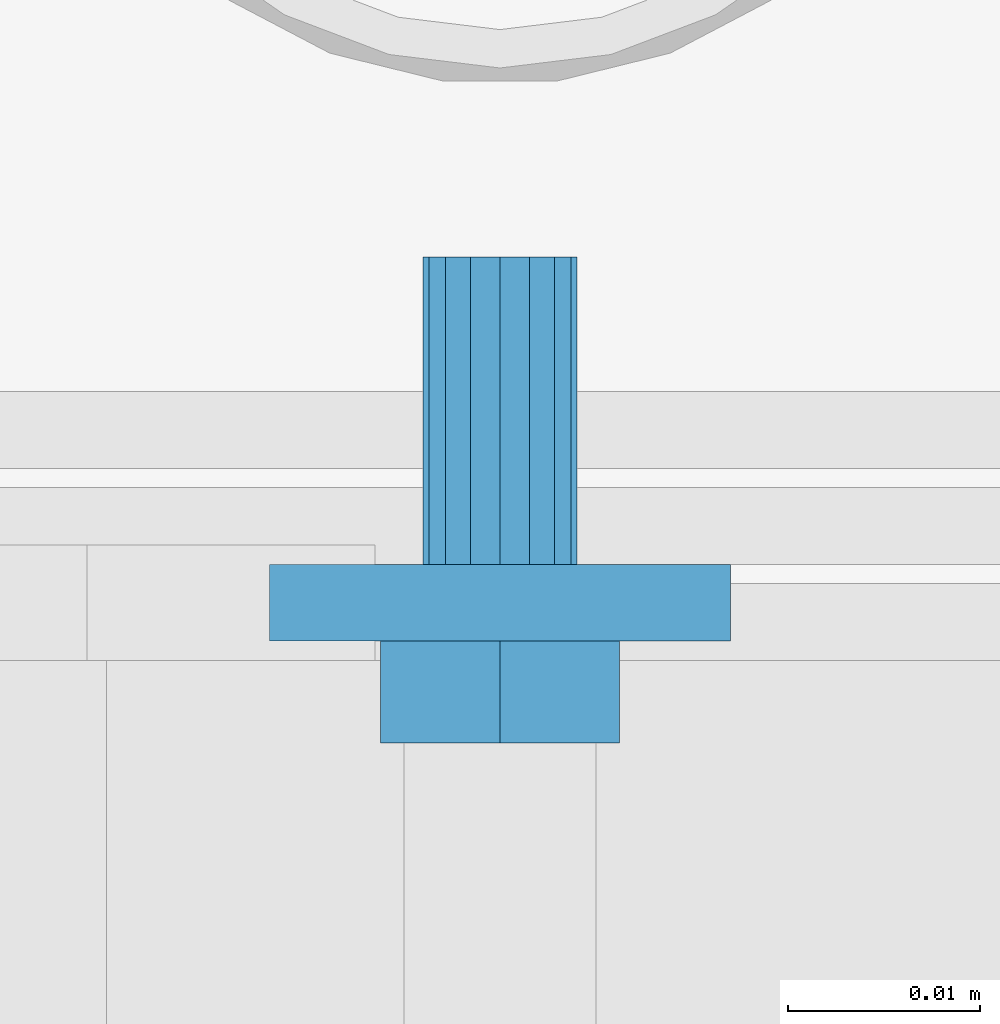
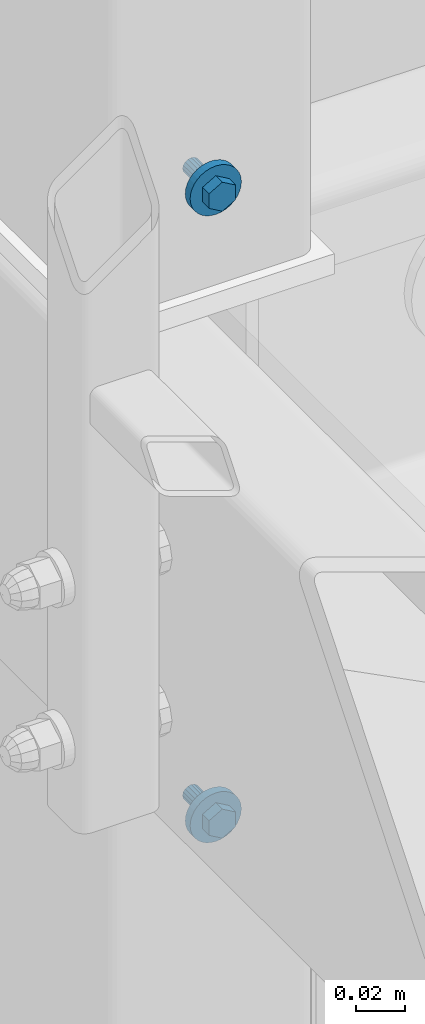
# One storey, part 55 of 116: 2 mechanical fasteners.
"""IFC2X3 building model written with IfcOpenShell, lengths in millimetres."""

from ifc_helpers import new_model, entity, si_unit, converted_unit, origin_with_axes, place, context, project, spatial, faceted_brep, element, save


model = new_model("IFC2X3")

# Units and contexts
model_context = context("Model", 3, precision=1e-09, world=origin_with_axes())
ifc_project = project(units=[si_unit("LENGTHUNIT", "METRE", prefix="MILLI"), si_unit("AREAUNIT", "SQUARE_METRE"), si_unit("VOLUMEUNIT", "CUBIC_METRE"), converted_unit("PLANEANGLEUNIT", "DEGREE", entity("IfcPlaneAngleMeasure", 0.01745329), si_unit("PLANEANGLEUNIT", "RADIAN"), dimensions=[0, 0, 0, 0, 0, 0, 0])], contexts=[model_context])

# Site, building, storey
site_placement = place(None, origin_with_axes())
site = spatial("IfcSite", under=ifc_project, at=site_placement, Name="Site", CompositionType="ELEMENT")
building_placement = place(site_placement, origin_with_axes())
building = spatial("IfcBuilding", under=site, at=building_placement, Name="Struktur 1", CompositionType="ELEMENT")
storey_placement = place(building_placement, origin_with_axes())
storey = spatial("IfcBuildingStorey", under=building, at=storey_placement, Name="Default Storey", CompositionType="ELEMENT", Elevation=0.0)

# Mechanical fasteners
mechanical_fastener_1_placement = place(None, origin_with_axes())
element("IfcMechanicalFastener", 1, at=mechanical_fastener_1_placement, inside=storey, ObjectType="-", NominalDiameter=8.0, NominalLength=20.0, context=model_context, shape_type="Brep", body=[
    faceted_brep([(55325.049134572, 11910.358883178, -255.0), (55325.049134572, 11912.358883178, -255.0), (55325.279711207, 11912.358883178, -257.341083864), (55325.279711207, 11910.358883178, -257.341083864), (55325.962580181, 11912.358883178, -259.592201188), (55325.962580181, 11910.358883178, -259.592201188), (55327.071499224, 11912.358883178, -261.666842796), (55327.071499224, 11910.358883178, -261.666842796), (55328.563853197, 11912.358883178, -263.485281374), (55328.563853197, 11910.358883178, -263.485281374), (55330.382291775, 11912.358883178, -264.977635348), (55330.382291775, 11910.358883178, -264.977635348), (55332.456933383, 11912.358883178, -266.08655439), (55332.456933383, 11910.358883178, -266.08655439), (55334.708050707, 11912.358883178, -266.769423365), (55334.708050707, 11910.358883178, -266.769423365), (55337.049134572, 11912.358883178, -267.0), (55337.049134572, 11910.358883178, -267.0), (55339.390218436, 11912.358883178, -266.769423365), (55339.390218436, 11910.358883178, -266.769423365), (55341.64133576, 11912.358883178, -266.08655439), (55341.64133576, 11910.358883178, -266.08655439), (55343.715977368, 11912.358883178, -264.977635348), (55343.715977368, 11910.358883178, -264.977635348), (55345.534415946, 11912.358883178, -263.485281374), (55345.534415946, 11910.358883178, -263.485281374), (55347.026769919, 11912.358883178, -261.666842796), (55347.026769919, 11910.358883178, -261.666842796), (55348.135688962, 11912.358883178, -259.592201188), (55348.135688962, 11910.358883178, -259.592201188), (55348.818557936, 11912.358883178, -257.341083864), (55348.818557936, 11910.358883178, -257.341083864), (55349.049134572, 11912.358883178, -255.0), (55349.049134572, 11910.358883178, -255.0), (55348.818557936, 11912.358883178, -252.658916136), (55348.818557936, 11910.358883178, -252.658916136), (55348.135688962, 11912.358883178, -250.407798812), (55348.135688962, 11910.358883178, -250.407798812), (55347.026769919, 11912.358883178, -248.333157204), (55347.026769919, 11910.358883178, -248.333157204), (55345.534415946, 11912.358883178, -246.514718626), (55345.534415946, 11910.358883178, -246.514718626), (55343.715977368, 11912.358883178, -245.022364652), (55343.715977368, 11910.358883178, -245.022364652), (55341.64133576, 11912.358883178, -243.91344561), (55341.64133576, 11910.358883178, -243.91344561), (55339.390218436, 11912.358883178, -243.230576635), (55339.390218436, 11910.358883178, -243.230576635), (55337.049134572, 11912.358883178, -243.0), (55337.049134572, 11910.358883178, -243.0), (55334.708050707, 11912.358883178, -243.230576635), (55334.708050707, 11910.358883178, -243.230576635), (55332.456933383, 11912.358883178, -243.91344561), (55332.456933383, 11910.358883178, -243.91344561), (55330.382291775, 11912.358883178, -245.022364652), (55330.382291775, 11910.358883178, -245.022364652), (55328.563853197, 11912.358883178, -246.514718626), (55328.563853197, 11910.358883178, -246.514718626), (55327.071499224, 11912.358883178, -248.333157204), (55327.071499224, 11910.358883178, -248.333157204), (55325.962580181, 11912.358883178, -250.407798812), (55325.962580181, 11910.358883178, -250.407798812), (55325.279711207, 11912.358883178, -252.658916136), (55325.279711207, 11910.358883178, -252.658916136)], [[[0, 1, 2, 3]], [[3, 2, 4, 5]], [[5, 4, 6, 7]], [[7, 6, 8, 9]], [[9, 8, 10, 11]], [[11, 10, 12, 13]], [[13, 12, 14, 15]], [[15, 14, 16, 17]], [[17, 16, 18, 19]], [[19, 18, 20, 21]], [[21, 20, 22, 23]], [[23, 22, 24, 25]], [[25, 24, 26, 27]], [[27, 26, 28, 29]], [[29, 28, 30, 31]], [[31, 30, 32, 33]], [[33, 32, 34, 35]], [[35, 34, 36, 37]], [[37, 36, 38, 39]], [[39, 38, 40, 41]], [[41, 40, 42, 43]], [[43, 42, 44, 45]], [[45, 44, 46, 47]], [[47, 46, 48, 49]], [[49, 48, 50, 51]], [[51, 50, 52, 53]], [[53, 52, 54, 55]], [[55, 54, 56, 57]], [[57, 56, 58, 59]], [[59, 58, 60, 61]], [[61, 60, 62, 63]], [[63, 62, 1, 0]], [[0, 3, 5, 7, 9, 11, 13, 15, 17, 19, 21, 23, 25, 27, 29, 31, 33, 35, 37, 39, 41, 43, 45, 47, 49, 51, 53, 55, 57, 59, 61, 63]], [[1, 62, 60, 58, 56, 54, 52, 50, 48, 46, 44, 42, 40, 38, 36, 34, 32, 30, 28, 26, 24, 22, 20, 18, 16, 14, 12, 10, 8, 6, 4, 2]]]),
    faceted_brep([(55325.049134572, 11908.358883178, -255.0), (55325.049134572, 11910.358883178, -255.0), (55325.279711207, 11910.358883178, -257.341083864), (55325.279711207, 11908.358883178, -257.341083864), (55325.962580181, 11910.358883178, -259.592201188), (55325.962580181, 11908.358883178, -259.592201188), (55327.071499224, 11910.358883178, -261.666842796), (55327.071499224, 11908.358883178, -261.666842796), (55328.563853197, 11910.358883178, -263.485281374), (55328.563853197, 11908.358883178, -263.485281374), (55330.382291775, 11910.358883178, -264.977635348), (55330.382291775, 11908.358883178, -264.977635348), (55332.456933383, 11910.358883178, -266.08655439), (55332.456933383, 11908.358883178, -266.08655439), (55334.708050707, 11910.358883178, -266.769423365), (55334.708050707, 11908.358883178, -266.769423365), (55337.049134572, 11910.358883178, -267.0), (55337.049134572, 11908.358883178, -267.0), (55339.390218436, 11910.358883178, -266.769423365), (55339.390218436, 11908.358883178, -266.769423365), (55341.64133576, 11910.358883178, -266.08655439), (55341.64133576, 11908.358883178, -266.08655439), (55343.715977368, 11910.358883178, -264.977635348), (55343.715977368, 11908.358883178, -264.977635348), (55345.534415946, 11910.358883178, -263.485281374), (55345.534415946, 11908.358883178, -263.485281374), (55347.026769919, 11910.358883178, -261.666842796), (55347.026769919, 11908.358883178, -261.666842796), (55348.135688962, 11910.358883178, -259.592201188), (55348.135688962, 11908.358883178, -259.592201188), (55348.818557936, 11910.358883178, -257.341083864), (55348.818557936, 11908.358883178, -257.341083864), (55349.049134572, 11910.358883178, -255.0), (55349.049134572, 11908.358883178, -255.0), (55348.818557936, 11910.358883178, -252.658916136), (55348.818557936, 11908.358883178, -252.658916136), (55348.135688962, 11910.358883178, -250.407798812), (55348.135688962, 11908.358883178, -250.407798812), (55347.026769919, 11910.358883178, -248.333157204), (55347.026769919, 11908.358883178, -248.333157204), (55345.534415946, 11910.358883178, -246.514718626), (55345.534415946, 11908.358883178, -246.514718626), (55343.715977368, 11910.358883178, -245.022364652), (55343.715977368, 11908.358883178, -245.022364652), (55341.64133576, 11910.358883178, -243.91344561), (55341.64133576, 11908.358883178, -243.91344561), (55339.390218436, 11910.358883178, -243.230576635), (55339.390218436, 11908.358883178, -243.230576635), (55337.049134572, 11910.358883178, -243.0), (55337.049134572, 11908.358883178, -243.0), (55334.708050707, 11910.358883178, -243.230576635), (55334.708050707, 11908.358883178, -243.230576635), (55332.456933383, 11910.358883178, -243.91344561), (55332.456933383, 11908.358883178, -243.91344561), (55330.382291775, 11910.358883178, -245.022364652), (55330.382291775, 11908.358883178, -245.022364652), (55328.563853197, 11910.358883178, -246.514718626), (55328.563853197, 11908.358883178, -246.514718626), (55327.071499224, 11910.358883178, -248.333157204), (55327.071499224, 11908.358883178, -248.333157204), (55325.962580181, 11910.358883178, -250.407798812), (55325.962580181, 11908.358883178, -250.407798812), (55325.279711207, 11910.358883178, -252.658916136), (55325.279711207, 11908.358883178, -252.658916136)], [[[0, 1, 2, 3]], [[3, 2, 4, 5]], [[5, 4, 6, 7]], [[7, 6, 8, 9]], [[9, 8, 10, 11]], [[11, 10, 12, 13]], [[13, 12, 14, 15]], [[15, 14, 16, 17]], [[17, 16, 18, 19]], [[19, 18, 20, 21]], [[21, 20, 22, 23]], [[23, 22, 24, 25]], [[25, 24, 26, 27]], [[27, 26, 28, 29]], [[29, 28, 30, 31]], [[31, 30, 32, 33]], [[33, 32, 34, 35]], [[35, 34, 36, 37]], [[37, 36, 38, 39]], [[39, 38, 40, 41]], [[41, 40, 42, 43]], [[43, 42, 44, 45]], [[45, 44, 46, 47]], [[47, 46, 48, 49]], [[49, 48, 50, 51]], [[51, 50, 52, 53]], [[53, 52, 54, 55]], [[55, 54, 56, 57]], [[57, 56, 58, 59]], [[59, 58, 60, 61]], [[61, 60, 62, 63]], [[63, 62, 1, 0]], [[0, 3, 5, 7, 9, 11, 13, 15, 17, 19, 21, 23, 25, 27, 29, 31, 33, 35, 37, 39, 41, 43, 45, 47, 49, 51, 53, 55, 57, 59, 61, 63]], [[1, 62, 60, 58, 56, 54, 52, 50, 48, 46, 44, 42, 40, 38, 36, 34, 32, 30, 28, 26, 24, 22, 20, 18, 16, 14, 12, 10, 8, 6, 4, 2]]]),
    faceted_brep([(55343.275857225, 11908.358883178, -258.595), (55343.275857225, 11903.058883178, -258.595), (55337.049134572, 11903.058883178, -262.19), (55337.049134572, 11908.358883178, -262.19), (55330.822411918, 11903.058883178, -258.595), (55330.822411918, 11908.358883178, -258.595), (55330.822411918, 11903.058883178, -251.405), (55330.822411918, 11908.358883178, -251.405), (55337.049134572, 11903.058883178, -247.81), (55337.049134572, 11908.358883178, -247.81), (55343.275857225, 11903.058883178, -251.405), (55343.275857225, 11908.358883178, -251.405)], [[[0, 1, 2, 3]], [[3, 2, 4, 5]], [[5, 4, 6, 7]], [[7, 6, 8, 9]], [[9, 8, 10, 11]], [[11, 10, 1, 0]], [[4, 2, 1, 10, 8, 6]], [[0, 3, 5, 7, 9, 11]]]),
    faceted_brep([(55333.049134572, 11912.358883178, -255.0), (55333.049134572, 11921.358883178, -255.0), (55333.353616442, 11921.358883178, -256.530733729), (55333.353616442, 11912.358883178, -256.530733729), (55334.220707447, 11921.358883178, -257.828427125), (55334.220707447, 11912.358883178, -257.828427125), (55335.518400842, 11921.358883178, -258.69551813), (55335.518400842, 11912.358883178, -258.69551813), (55337.049134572, 11921.358883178, -259.0), (55337.049134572, 11912.358883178, -259.0), (55338.579868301, 11921.358883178, -258.69551813), (55338.579868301, 11912.358883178, -258.69551813), (55339.877561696, 11921.358883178, -257.828427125), (55339.877561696, 11912.358883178, -257.828427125), (55340.744652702, 11921.358883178, -256.530733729), (55340.744652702, 11912.358883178, -256.530733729), (55341.049134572, 11921.358883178, -255.0), (55341.049134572, 11912.358883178, -255.0), (55340.744652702, 11921.358883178, -253.46926627), (55340.744652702, 11912.358883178, -253.46926627), (55339.877561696, 11921.358883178, -252.171572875), (55339.877561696, 11912.358883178, -252.171572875), (55338.579868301, 11921.358883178, -251.30448187), (55338.579868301, 11912.358883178, -251.30448187), (55337.049134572, 11921.358883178, -251.0), (55337.049134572, 11912.358883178, -251.0), (55335.518400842, 11921.358883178, -251.30448187), (55335.518400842, 11912.358883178, -251.30448187), (55334.220707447, 11921.358883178, -252.171572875), (55334.220707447, 11912.358883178, -252.171572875), (55333.353616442, 11921.358883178, -253.46926627), (55333.353616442, 11912.358883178, -253.46926627)], [[[0, 1, 2, 3]], [[3, 2, 4, 5]], [[5, 4, 6, 7]], [[7, 6, 8, 9]], [[9, 8, 10, 11]], [[11, 10, 12, 13]], [[13, 12, 14, 15]], [[15, 14, 16, 17]], [[17, 16, 18, 19]], [[19, 18, 20, 21]], [[21, 20, 22, 23]], [[23, 22, 24, 25]], [[25, 24, 26, 27]], [[27, 26, 28, 29]], [[29, 28, 30, 31]], [[31, 30, 1, 0]], [[0, 3, 5, 7, 9, 11, 13, 15, 17, 19, 21, 23, 25, 27, 29, 31]], [[1, 30, 28, 26, 24, 22, 20, 18, 16, 14, 12, 10, 8, 6, 4, 2]]]),
    faceted_brep([(55333.049134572, 11921.358883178, -255.0), (55333.049134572, 11928.358883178, -255.0), (55333.353616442, 11928.358883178, -256.530733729), (55333.353616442, 11921.358883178, -256.530733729), (55334.220707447, 11928.358883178, -257.828427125), (55334.220707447, 11921.358883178, -257.828427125), (55335.518400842, 11928.358883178, -258.69551813), (55335.518400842, 11921.358883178, -258.69551813), (55337.049134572, 11928.358883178, -259.0), (55337.049134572, 11921.358883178, -259.0), (55338.579868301, 11928.358883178, -258.69551813), (55338.579868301, 11921.358883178, -258.69551813), (55339.877561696, 11928.358883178, -257.828427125), (55339.877561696, 11921.358883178, -257.828427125), (55340.744652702, 11928.358883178, -256.530733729), (55340.744652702, 11921.358883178, -256.530733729), (55341.049134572, 11928.358883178, -255.0), (55341.049134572, 11921.358883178, -255.0), (55340.744652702, 11928.358883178, -253.46926627), (55340.744652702, 11921.358883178, -253.46926627), (55339.877561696, 11928.358883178, -252.171572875), (55339.877561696, 11921.358883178, -252.171572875), (55338.579868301, 11928.358883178, -251.30448187), (55338.579868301, 11921.358883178, -251.30448187), (55337.049134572, 11928.358883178, -251.0), (55337.049134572, 11921.358883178, -251.0), (55335.518400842, 11928.358883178, -251.30448187), (55335.518400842, 11921.358883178, -251.30448187), (55334.220707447, 11928.358883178, -252.171572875), (55334.220707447, 11921.358883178, -252.171572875), (55333.353616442, 11928.358883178, -253.46926627), (55333.353616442, 11921.358883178, -253.46926627)], [[[0, 1, 2, 3]], [[3, 2, 4, 5]], [[5, 4, 6, 7]], [[7, 6, 8, 9]], [[9, 8, 10, 11]], [[11, 10, 12, 13]], [[13, 12, 14, 15]], [[15, 14, 16, 17]], [[17, 16, 18, 19]], [[19, 18, 20, 21]], [[21, 20, 22, 23]], [[23, 22, 24, 25]], [[25, 24, 26, 27]], [[27, 26, 28, 29]], [[29, 28, 30, 31]], [[31, 30, 1, 0]], [[0, 3, 5, 7, 9, 11, 13, 15, 17, 19, 21, 23, 25, 27, 29, 31]], [[1, 30, 28, 26, 24, 22, 20, 18, 16, 14, 12, 10, 8, 6, 4, 2]]]),
])
mechanical_fastener_2_placement = place(None, origin_with_axes())
element("IfcMechanicalFastener", 2, at=mechanical_fastener_2_placement, inside=storey, ObjectType="-", NominalDiameter=8.0, NominalLength=20.0, context=model_context, shape_type="Brep", body=[
    faceted_brep([(55325.049134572, 11912.358883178, 55.0), (55325.049134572, 11910.358883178, 55.0), (55325.279711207, 11910.358883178, 57.341083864), (55325.279711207, 11912.358883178, 57.341083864), (55325.962580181, 11910.358883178, 59.592201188), (55325.962580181, 11912.358883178, 59.592201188), (55327.071499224, 11910.358883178, 61.666842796), (55327.071499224, 11912.358883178, 61.666842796), (55328.563853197, 11910.358883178, 63.485281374), (55328.563853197, 11912.358883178, 63.485281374), (55330.382291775, 11910.358883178, 64.977635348), (55330.382291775, 11912.358883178, 64.977635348), (55332.456933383, 11910.358883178, 66.08655439), (55332.456933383, 11912.358883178, 66.08655439), (55334.708050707, 11910.358883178, 66.769423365), (55334.708050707, 11912.358883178, 66.769423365), (55337.049134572, 11910.358883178, 67.0), (55337.049134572, 11912.358883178, 67.0), (55339.390218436, 11910.358883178, 66.769423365), (55339.390218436, 11912.358883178, 66.769423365), (55341.64133576, 11910.358883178, 66.08655439), (55341.64133576, 11912.358883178, 66.08655439), (55343.715977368, 11910.358883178, 64.977635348), (55343.715977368, 11912.358883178, 64.977635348), (55345.534415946, 11910.358883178, 63.485281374), (55345.534415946, 11912.358883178, 63.485281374), (55347.026769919, 11910.358883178, 61.666842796), (55347.026769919, 11912.358883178, 61.666842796), (55348.135688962, 11910.358883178, 59.592201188), (55348.135688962, 11912.358883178, 59.592201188), (55348.818557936, 11910.358883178, 57.341083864), (55348.818557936, 11912.358883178, 57.341083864), (55349.049134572, 11910.358883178, 55.0), (55349.049134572, 11912.358883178, 55.0), (55348.818557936, 11910.358883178, 52.658916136), (55348.818557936, 11912.358883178, 52.658916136), (55348.135688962, 11910.358883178, 50.407798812), (55348.135688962, 11912.358883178, 50.407798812), (55347.026769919, 11910.358883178, 48.333157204), (55347.026769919, 11912.358883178, 48.333157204), (55345.534415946, 11910.358883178, 46.514718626), (55345.534415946, 11912.358883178, 46.514718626), (55343.715977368, 11910.358883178, 45.022364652), (55343.715977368, 11912.358883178, 45.022364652), (55341.64133576, 11910.358883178, 43.91344561), (55341.64133576, 11912.358883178, 43.91344561), (55339.390218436, 11910.358883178, 43.230576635), (55339.390218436, 11912.358883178, 43.230576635), (55337.049134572, 11910.358883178, 43.0), (55337.049134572, 11912.358883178, 43.0), (55334.708050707, 11910.358883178, 43.230576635), (55334.708050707, 11912.358883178, 43.230576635), (55332.456933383, 11910.358883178, 43.91344561), (55332.456933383, 11912.358883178, 43.91344561), (55330.382291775, 11910.358883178, 45.022364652), (55330.382291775, 11912.358883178, 45.022364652), (55328.563853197, 11910.358883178, 46.514718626), (55328.563853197, 11912.358883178, 46.514718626), (55327.071499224, 11910.358883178, 48.333157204), (55327.071499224, 11912.358883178, 48.333157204), (55325.962580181, 11910.358883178, 50.407798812), (55325.962580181, 11912.358883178, 50.407798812), (55325.279711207, 11910.358883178, 52.658916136), (55325.279711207, 11912.358883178, 52.658916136)], [[[0, 1, 2, 3]], [[3, 2, 4, 5]], [[5, 4, 6, 7]], [[7, 6, 8, 9]], [[9, 8, 10, 11]], [[11, 10, 12, 13]], [[13, 12, 14, 15]], [[15, 14, 16, 17]], [[17, 16, 18, 19]], [[19, 18, 20, 21]], [[21, 20, 22, 23]], [[23, 22, 24, 25]], [[25, 24, 26, 27]], [[27, 26, 28, 29]], [[29, 28, 30, 31]], [[31, 30, 32, 33]], [[33, 32, 34, 35]], [[35, 34, 36, 37]], [[37, 36, 38, 39]], [[39, 38, 40, 41]], [[41, 40, 42, 43]], [[43, 42, 44, 45]], [[45, 44, 46, 47]], [[47, 46, 48, 49]], [[49, 48, 50, 51]], [[51, 50, 52, 53]], [[53, 52, 54, 55]], [[55, 54, 56, 57]], [[57, 56, 58, 59]], [[59, 58, 60, 61]], [[61, 60, 62, 63]], [[63, 62, 1, 0]], [[2, 1, 62, 60, 58, 56, 54, 52, 50, 48, 46, 44, 42, 40, 38, 36, 34, 32, 30, 28, 26, 24, 22, 20, 18, 16, 14, 12, 10, 8, 6, 4]], [[63, 0, 3, 5, 7, 9, 11, 13, 15, 17, 19, 21, 23, 25, 27, 29, 31, 33, 35, 37, 39, 41, 43, 45, 47, 49, 51, 53, 55, 57, 59, 61]]]),
    faceted_brep([(55325.049134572, 11910.358883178, 55.0), (55325.049134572, 11908.358883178, 55.0), (55325.279711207, 11908.358883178, 57.341083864), (55325.279711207, 11910.358883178, 57.341083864), (55325.962580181, 11908.358883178, 59.592201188), (55325.962580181, 11910.358883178, 59.592201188), (55327.071499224, 11908.358883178, 61.666842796), (55327.071499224, 11910.358883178, 61.666842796), (55328.563853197, 11908.358883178, 63.485281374), (55328.563853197, 11910.358883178, 63.485281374), (55330.382291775, 11908.358883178, 64.977635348), (55330.382291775, 11910.358883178, 64.977635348), (55332.456933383, 11908.358883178, 66.08655439), (55332.456933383, 11910.358883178, 66.08655439), (55334.708050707, 11908.358883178, 66.769423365), (55334.708050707, 11910.358883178, 66.769423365), (55337.049134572, 11908.358883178, 67.0), (55337.049134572, 11910.358883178, 67.0), (55339.390218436, 11908.358883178, 66.769423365), (55339.390218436, 11910.358883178, 66.769423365), (55341.64133576, 11908.358883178, 66.08655439), (55341.64133576, 11910.358883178, 66.08655439), (55343.715977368, 11908.358883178, 64.977635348), (55343.715977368, 11910.358883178, 64.977635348), (55345.534415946, 11908.358883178, 63.485281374), (55345.534415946, 11910.358883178, 63.485281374), (55347.026769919, 11908.358883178, 61.666842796), (55347.026769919, 11910.358883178, 61.666842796), (55348.135688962, 11908.358883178, 59.592201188), (55348.135688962, 11910.358883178, 59.592201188), (55348.818557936, 11908.358883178, 57.341083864), (55348.818557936, 11910.358883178, 57.341083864), (55349.049134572, 11908.358883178, 55.0), (55349.049134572, 11910.358883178, 55.0), (55348.818557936, 11908.358883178, 52.658916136), (55348.818557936, 11910.358883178, 52.658916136), (55348.135688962, 11908.358883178, 50.407798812), (55348.135688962, 11910.358883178, 50.407798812), (55347.026769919, 11908.358883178, 48.333157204), (55347.026769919, 11910.358883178, 48.333157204), (55345.534415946, 11908.358883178, 46.514718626), (55345.534415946, 11910.358883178, 46.514718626), (55343.715977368, 11908.358883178, 45.022364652), (55343.715977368, 11910.358883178, 45.022364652), (55341.64133576, 11908.358883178, 43.91344561), (55341.64133576, 11910.358883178, 43.91344561), (55339.390218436, 11908.358883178, 43.230576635), (55339.390218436, 11910.358883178, 43.230576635), (55337.049134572, 11908.358883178, 43.0), (55337.049134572, 11910.358883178, 43.0), (55334.708050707, 11908.358883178, 43.230576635), (55334.708050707, 11910.358883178, 43.230576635), (55332.456933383, 11908.358883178, 43.91344561), (55332.456933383, 11910.358883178, 43.91344561), (55330.382291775, 11908.358883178, 45.022364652), (55330.382291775, 11910.358883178, 45.022364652), (55328.563853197, 11908.358883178, 46.514718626), (55328.563853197, 11910.358883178, 46.514718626), (55327.071499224, 11908.358883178, 48.333157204), (55327.071499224, 11910.358883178, 48.333157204), (55325.962580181, 11908.358883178, 50.407798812), (55325.962580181, 11910.358883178, 50.407798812), (55325.279711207, 11908.358883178, 52.658916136), (55325.279711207, 11910.358883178, 52.658916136)], [[[0, 1, 2, 3]], [[3, 2, 4, 5]], [[5, 4, 6, 7]], [[7, 6, 8, 9]], [[9, 8, 10, 11]], [[11, 10, 12, 13]], [[13, 12, 14, 15]], [[15, 14, 16, 17]], [[17, 16, 18, 19]], [[19, 18, 20, 21]], [[21, 20, 22, 23]], [[23, 22, 24, 25]], [[25, 24, 26, 27]], [[27, 26, 28, 29]], [[29, 28, 30, 31]], [[31, 30, 32, 33]], [[33, 32, 34, 35]], [[35, 34, 36, 37]], [[37, 36, 38, 39]], [[39, 38, 40, 41]], [[41, 40, 42, 43]], [[43, 42, 44, 45]], [[45, 44, 46, 47]], [[47, 46, 48, 49]], [[49, 48, 50, 51]], [[51, 50, 52, 53]], [[53, 52, 54, 55]], [[55, 54, 56, 57]], [[57, 56, 58, 59]], [[59, 58, 60, 61]], [[61, 60, 62, 63]], [[63, 62, 1, 0]], [[2, 1, 62, 60, 58, 56, 54, 52, 50, 48, 46, 44, 42, 40, 38, 36, 34, 32, 30, 28, 26, 24, 22, 20, 18, 16, 14, 12, 10, 8, 6, 4]], [[63, 0, 3, 5, 7, 9, 11, 13, 15, 17, 19, 21, 23, 25, 27, 29, 31, 33, 35, 37, 39, 41, 43, 45, 47, 49, 51, 53, 55, 57, 59, 61]]]),
    faceted_brep([(55343.275857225, 11903.058883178, 58.595), (55343.275857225, 11908.358883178, 58.595), (55337.049134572, 11908.358883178, 62.19), (55337.049134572, 11903.058883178, 62.19), (55330.822411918, 11908.358883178, 58.595), (55330.822411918, 11903.058883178, 58.595), (55330.822411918, 11908.358883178, 51.405), (55330.822411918, 11903.058883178, 51.405), (55337.049134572, 11908.358883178, 47.81), (55337.049134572, 11903.058883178, 47.81), (55343.275857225, 11908.358883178, 51.405), (55343.275857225, 11903.058883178, 51.405)], [[[0, 1, 2, 3]], [[3, 2, 4, 5]], [[5, 4, 6, 7]], [[7, 6, 8, 9]], [[9, 8, 10, 11]], [[11, 10, 1, 0]], [[3, 5, 7, 9, 11, 0]], [[2, 1, 10, 8, 6, 4]]]),
    faceted_brep([(55333.049134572, 11921.358883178, 55.0), (55333.049134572, 11912.358883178, 55.0), (55333.353616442, 11912.358883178, 56.53073373), (55333.353616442, 11921.358883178, 56.53073373), (55334.220707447, 11912.358883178, 57.828427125), (55334.220707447, 11921.358883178, 57.828427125), (55335.518400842, 11912.358883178, 58.69551813), (55335.518400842, 11921.358883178, 58.69551813), (55337.049134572, 11912.358883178, 59.0), (55337.049134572, 11921.358883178, 59.0), (55338.579868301, 11912.358883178, 58.69551813), (55338.579868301, 11921.358883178, 58.69551813), (55339.877561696, 11912.358883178, 57.828427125), (55339.877561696, 11921.358883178, 57.828427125), (55340.744652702, 11912.358883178, 56.53073373), (55340.744652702, 11921.358883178, 56.53073373), (55341.049134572, 11912.358883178, 55.0), (55341.049134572, 11921.358883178, 55.0), (55340.744652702, 11912.358883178, 53.469266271), (55340.744652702, 11921.358883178, 53.469266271), (55339.877561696, 11912.358883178, 52.171572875), (55339.877561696, 11921.358883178, 52.171572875), (55338.579868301, 11912.358883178, 51.30448187), (55338.579868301, 11921.358883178, 51.30448187), (55337.049134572, 11912.358883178, 51.0), (55337.049134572, 11921.358883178, 51.0), (55335.518400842, 11912.358883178, 51.30448187), (55335.518400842, 11921.358883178, 51.30448187), (55334.220707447, 11912.358883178, 52.171572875), (55334.220707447, 11921.358883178, 52.171572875), (55333.353616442, 11912.358883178, 53.469266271), (55333.353616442, 11921.358883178, 53.469266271)], [[[0, 1, 2, 3]], [[3, 2, 4, 5]], [[5, 4, 6, 7]], [[7, 6, 8, 9]], [[9, 8, 10, 11]], [[11, 10, 12, 13]], [[13, 12, 14, 15]], [[15, 14, 16, 17]], [[17, 16, 18, 19]], [[19, 18, 20, 21]], [[21, 20, 22, 23]], [[23, 22, 24, 25]], [[25, 24, 26, 27]], [[27, 26, 28, 29]], [[29, 28, 30, 31]], [[31, 30, 1, 0]], [[2, 1, 30, 28, 26, 24, 22, 20, 18, 16, 14, 12, 10, 8, 6, 4]], [[31, 0, 3, 5, 7, 9, 11, 13, 15, 17, 19, 21, 23, 25, 27, 29]]]),
    faceted_brep([(55333.049134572, 11928.358883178, 55.0), (55333.049134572, 11921.358883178, 55.0), (55333.353616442, 11921.358883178, 56.53073373), (55333.353616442, 11928.358883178, 56.53073373), (55334.220707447, 11921.358883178, 57.828427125), (55334.220707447, 11928.358883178, 57.828427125), (55335.518400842, 11921.358883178, 58.69551813), (55335.518400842, 11928.358883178, 58.69551813), (55337.049134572, 11921.358883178, 59.0), (55337.049134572, 11928.358883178, 59.0), (55338.579868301, 11921.358883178, 58.69551813), (55338.579868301, 11928.358883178, 58.69551813), (55339.877561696, 11921.358883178, 57.828427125), (55339.877561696, 11928.358883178, 57.828427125), (55340.744652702, 11921.358883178, 56.53073373), (55340.744652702, 11928.358883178, 56.53073373), (55341.049134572, 11921.358883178, 55.0), (55341.049134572, 11928.358883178, 55.0), (55340.744652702, 11921.358883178, 53.469266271), (55340.744652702, 11928.358883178, 53.469266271), (55339.877561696, 11921.358883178, 52.171572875), (55339.877561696, 11928.358883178, 52.171572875), (55338.579868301, 11921.358883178, 51.30448187), (55338.579868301, 11928.358883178, 51.30448187), (55337.049134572, 11921.358883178, 51.0), (55337.049134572, 11928.358883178, 51.0), (55335.518400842, 11921.358883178, 51.30448187), (55335.518400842, 11928.358883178, 51.30448187), (55334.220707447, 11921.358883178, 52.171572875), (55334.220707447, 11928.358883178, 52.171572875), (55333.353616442, 11921.358883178, 53.469266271), (55333.353616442, 11928.358883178, 53.469266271)], [[[0, 1, 2, 3]], [[3, 2, 4, 5]], [[5, 4, 6, 7]], [[7, 6, 8, 9]], [[9, 8, 10, 11]], [[11, 10, 12, 13]], [[13, 12, 14, 15]], [[15, 14, 16, 17]], [[17, 16, 18, 19]], [[19, 18, 20, 21]], [[21, 20, 22, 23]], [[23, 22, 24, 25]], [[25, 24, 26, 27]], [[27, 26, 28, 29]], [[29, 28, 30, 31]], [[31, 30, 1, 0]], [[2, 1, 30, 28, 26, 24, 22, 20, 18, 16, 14, 12, 10, 8, 6, 4]], [[31, 0, 3, 5, 7, 9, 11, 13, 15, 17, 19, 21, 23, 25, 27, 29]]]),
])

save(model, "model.ifc")
